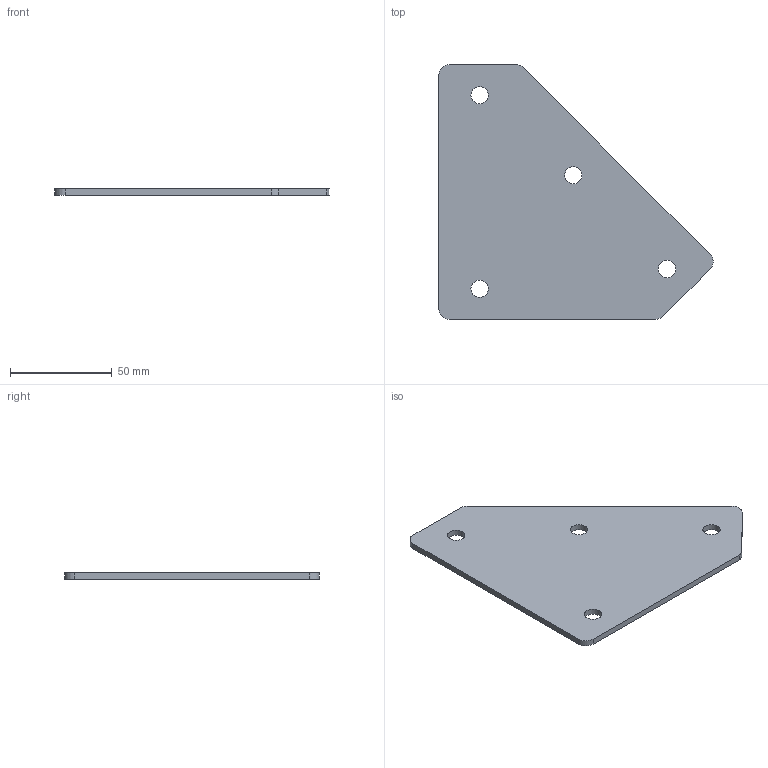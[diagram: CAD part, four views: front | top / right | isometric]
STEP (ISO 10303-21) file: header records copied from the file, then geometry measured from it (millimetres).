
FILE_DESCRIPTION(/* description */ ('CONNECTION PLATE 45° FOR 40x40'),/* implementation_level */ '2;1');
FILE_NAME(/* name */ '\\carryline.intra\privat\users\mathias\Desktop\Tillfälliga filer\100-5015.stp',/* time_stamp */ '2018-11-20T11:01:35+01:00',/* author */ ('PL'),/* organization */ ('CARRYLINE'),/* preprocessor_version */ 'ST-DEVELOPER v17',/* originating_system */ 'Autodesk Inventor 2018',/* authorisation */ '');
FILE_SCHEMA (('AUTOMOTIVE_DESIGN { 1 0 10303 214 3 1 1 }'));
Length unit declared in the file: millimetre
Products named in the file (1): 100-5015
Bounding box: 134.63 x 125 x 3 mm (x, y, z)
Volume: 35305 mm3; surface area: 25187.2 mm2
Topology: 1 solids, 1 shells, 16 faces, 46 edges, 32 vertices
Faces by surface type: cylinder 9, plane 7
Full cylindrical faces by diameter (mm): 8.5 x4
Entity records: 599 total; most frequent: DIRECTION 102, CARTESIAN_POINT 95, ORIENTED_EDGE 92, EDGE_CURVE 46, AXIS2_PLACEMENT_3D 39, VERTEX_POINT 32, EDGE_LOOP 24, LINE 24
